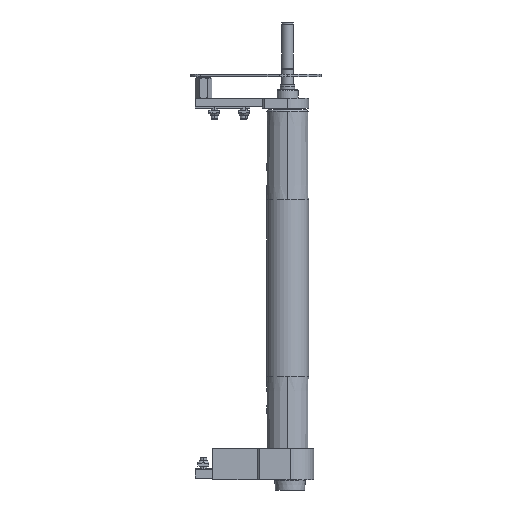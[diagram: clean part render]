
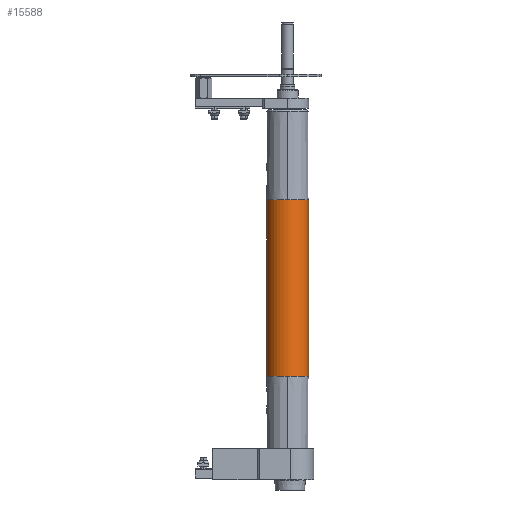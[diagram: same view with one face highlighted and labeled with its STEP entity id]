
A CAD part, front view. The second image highlights one B-rep face of the part: STEP entity #15588.
In plain terms, the highlighted cylindrical face has radius 25 mm (diameter 50 mm), a partial arc.
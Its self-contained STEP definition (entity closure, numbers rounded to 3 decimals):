
#74 = CARTESIAN_POINT ( 'NONE',  ( 210., 0., -25. ) ) ;
#213 = VERTEX_POINT ( 'NONE', #12402 ) ;
#227 = DIRECTION ( 'NONE',  ( -1., 0., 0. ) ) ;
#438 = CARTESIAN_POINT ( 'NONE',  ( -105., 0., 0. ) ) ;
#672 = VERTEX_POINT ( 'NONE', #18041 ) ;
#714 = EDGE_LOOP ( 'NONE', ( #15351, #13859, #760, #15405, #14886, #18873 ) ) ;
#760 = ORIENTED_EDGE ( 'NONE', *, *, #14333, .T. ) ;
#1267 = DIRECTION ( 'NONE',  ( -1., 0., 0. ) ) ;
#1839 = DIRECTION ( 'NONE',  ( 0., -1., 0. ) ) ;
#1979 = DIRECTION ( 'NONE',  ( -1., 0., 0. ) ) ;
#2310 = CIRCLE ( 'NONE', #18214, 25. ) ;
#2337 = CIRCLE ( 'NONE', #4300, 25. ) ;
#2542 = DIRECTION ( 'NONE',  ( -1., 0., 0. ) ) ;
#2585 = LINE ( 'NONE', #74, #18833 ) ;
#2721 = VERTEX_POINT ( 'NONE', #19355 ) ;
#3594 = CIRCLE ( 'NONE', #7672, 25. ) ;
#3975 = CIRCLE ( 'NONE', #15669, 25. ) ;
#4054 = CARTESIAN_POINT ( 'NONE',  ( -105., 0., 0. ) ) ;
#4260 = CARTESIAN_POINT ( 'NONE',  ( 210., 0., 0. ) ) ;
#4300 = AXIS2_PLACEMENT_3D ( 'NONE', #4711, #227, #16843 ) ;
#4603 = CARTESIAN_POINT ( 'NONE',  ( -105., 25., 0. ) ) ;
#4711 = CARTESIAN_POINT ( 'NONE',  ( 105., 0., 0. ) ) ;
#4984 = DIRECTION ( 'NONE',  ( 0., -1., 0. ) ) ;
#5106 = CARTESIAN_POINT ( 'NONE',  ( 105., 0., -25. ) ) ;
#7672 = AXIS2_PLACEMENT_3D ( 'NONE', #438, #18805, #4984 ) ;
#8441 = VECTOR ( 'NONE', #12740, 1000. ) ;
#8825 = CARTESIAN_POINT ( 'NONE',  ( 105., 25., 0. ) ) ;
#8955 = DIRECTION ( 'NONE',  ( 0., 0., 1. ) ) ;
#10145 = EDGE_CURVE ( 'NONE', #2721, #213, #15092, .T. ) ;
#10818 = EDGE_CURVE ( 'NONE', #213, #15705, #3594, .T. ) ;
#11396 = CYLINDRICAL_SURFACE ( 'NONE', #13102, 25. ) ;
#12402 = CARTESIAN_POINT ( 'NONE',  ( -105., 0., 25. ) ) ;
#12674 = CARTESIAN_POINT ( 'NONE',  ( 210., 0., 25. ) ) ;
#12740 = DIRECTION ( 'NONE',  ( -1., 0., 0. ) ) ;
#13102 = AXIS2_PLACEMENT_3D ( 'NONE', #4260, #1267, #8955 ) ;
#13778 = VERTEX_POINT ( 'NONE', #5106 ) ;
#13859 = ORIENTED_EDGE ( 'NONE', *, *, #17413, .T. ) ;
#14015 = DIRECTION ( 'NONE',  ( -1., 0., 0. ) ) ;
#14333 = EDGE_CURVE ( 'NONE', #13778, #672, #2585, .T. ) ;
#14886 = ORIENTED_EDGE ( 'NONE', *, *, #10818, .F. ) ;
#15092 = LINE ( 'NONE', #12674, #8441 ) ;
#15351 = ORIENTED_EDGE ( 'NONE', *, *, #17512, .T. ) ;
#15405 = ORIENTED_EDGE ( 'NONE', *, *, #15496, .F. ) ;
#15496 = EDGE_CURVE ( 'NONE', #15705, #672, #2310, .T. ) ;
#15551 = VERTEX_POINT ( 'NONE', #8825 ) ;
#15588 = ADVANCED_FACE ( 'NONE', ( #16625 ), #11396, .T. ) ;
#15669 = AXIS2_PLACEMENT_3D ( 'NONE', #18797, #1979, #1839 ) ;
#15705 = VERTEX_POINT ( 'NONE', #4603 ) ;
#16625 = FACE_OUTER_BOUND ( 'NONE', #714, .T. ) ;
#16843 = DIRECTION ( 'NONE',  ( 0., -1., 0. ) ) ;
#17413 = EDGE_CURVE ( 'NONE', #15551, #13778, #2337, .T. ) ;
#17512 = EDGE_CURVE ( 'NONE', #2721, #15551, #3975, .T. ) ;
#17932 = DIRECTION ( 'NONE',  ( 0., -1., 0. ) ) ;
#18041 = CARTESIAN_POINT ( 'NONE',  ( -105., 0., -25. ) ) ;
#18214 = AXIS2_PLACEMENT_3D ( 'NONE', #4054, #2542, #17932 ) ;
#18797 = CARTESIAN_POINT ( 'NONE',  ( 105., 0., 0. ) ) ;
#18805 = DIRECTION ( 'NONE',  ( -1., 0., 0. ) ) ;
#18833 = VECTOR ( 'NONE', #14015, 1000. ) ;
#18873 = ORIENTED_EDGE ( 'NONE', *, *, #10145, .F. ) ;
#19355 = CARTESIAN_POINT ( 'NONE',  ( 105., 0., 25. ) ) ;
